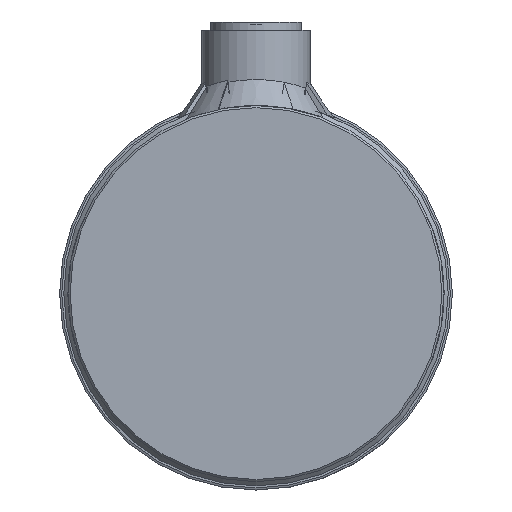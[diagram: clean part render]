
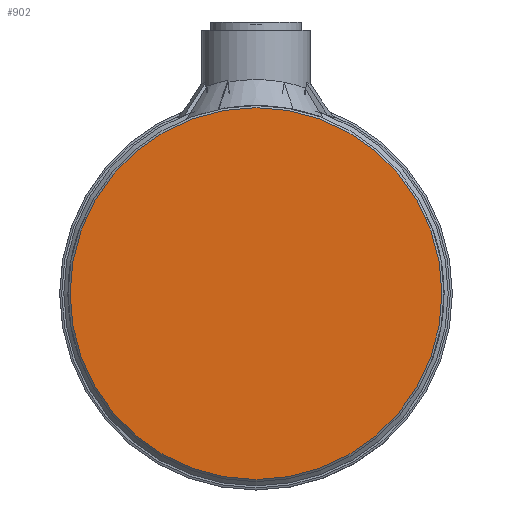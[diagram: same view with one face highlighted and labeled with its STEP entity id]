
A CAD part, left-side view. The second image highlights one B-rep face of the part: STEP entity #902.
In plain terms, the highlighted planar face has unit normal (-1, 0, 0).
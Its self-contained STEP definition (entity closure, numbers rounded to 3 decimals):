
#902 = ADVANCED_FACE( '', ( #1714 ), #1715, .T. );
#1714 = FACE_OUTER_BOUND( '', #4867, .T. );
#1715 = PLANE( '', #4868 );
#4867 = EDGE_LOOP( '', ( #8865 ) );
#4868 = AXIS2_PLACEMENT_3D( '', #8866, #8867, #8868 );
#8865 = ORIENTED_EDGE( '', *, *, #9962, .T. );
#8866 = CARTESIAN_POINT( '', ( -60., 0., 0. ) );
#8867 = DIRECTION( '', ( -1., 0., 0. ) );
#8868 = DIRECTION( '', ( 0., -1., 0. ) );
#9962 = EDGE_CURVE( '', #10805, #10805, #10806, .T. );
#10805 = VERTEX_POINT( '', #13162 );
#10806 = CIRCLE( '', #13163, 44.5 );
#13162 = CARTESIAN_POINT( '', ( -60., -44.5, 0. ) );
#13163 = AXIS2_PLACEMENT_3D( '', #14399, #14400, #14401 );
#14399 = CARTESIAN_POINT( '', ( -60., 0., 0. ) );
#14400 = DIRECTION( '', ( -1., 0., 0. ) );
#14401 = DIRECTION( '', ( 0., -1., 0. ) );
